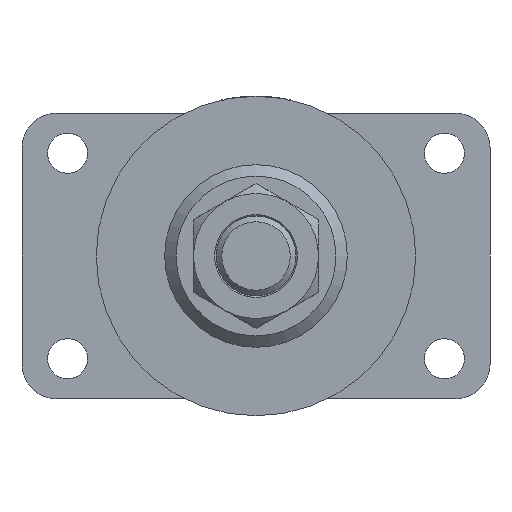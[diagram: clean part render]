
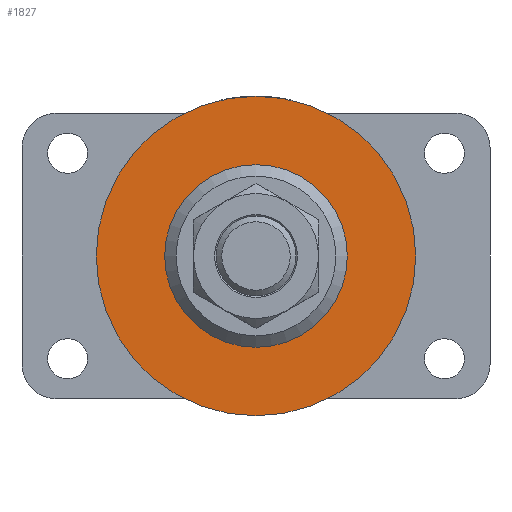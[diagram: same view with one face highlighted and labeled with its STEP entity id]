
A CAD part, front view. The second image highlights one B-rep face of the part: STEP entity #1827.
In plain terms, the highlighted planar face has unit normal (0, -1, 0).
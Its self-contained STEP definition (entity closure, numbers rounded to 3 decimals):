
#190=PLANE('',#1964);
#244=CIRCLE('',#1961,16.);
#246=CIRCLE('',#1965,28.);
#333=ORIENTED_EDGE('',*,*,#642,.T.);
#334=ORIENTED_EDGE('',*,*,#640,.T.);
#640=EDGE_CURVE('',#799,#799,#244,.F.);
#642=EDGE_CURVE('',#801,#801,#246,.T.);
#799=VERTEX_POINT('',#2587);
#801=VERTEX_POINT('',#2593);
#959=EDGE_LOOP('',(#333));
#960=EDGE_LOOP('',(#334));
#1113=FACE_BOUND('',#959,.T.);
#1114=FACE_BOUND('',#960,.T.);
#1827=ADVANCED_FACE('',(#1113,#1114),#190,.T.);
#1961=AXIS2_PLACEMENT_3D('',#2586,#2163,#2164);
#1964=AXIS2_PLACEMENT_3D('',#2591,#2169,#2170);
#1965=AXIS2_PLACEMENT_3D('',#2592,#2171,#2172);
#2163=DIRECTION('',(0.,-1.,0.));
#2164=DIRECTION('',(0.,0.,-1.));
#2169=DIRECTION('',(0.,-1.,0.));
#2170=DIRECTION('',(0.,0.,-1.));
#2171=DIRECTION('',(0.,-1.,0.));
#2172=DIRECTION('',(0.,0.,-1.));
#2586=CARTESIAN_POINT('',(0.,-22.,0.));
#2587=CARTESIAN_POINT('',(0.,-22.,-16.));
#2591=CARTESIAN_POINT('',(0.,-22.,0.));
#2592=CARTESIAN_POINT('',(0.,-22.,0.));
#2593=CARTESIAN_POINT('',(0.,-22.,-28.));
